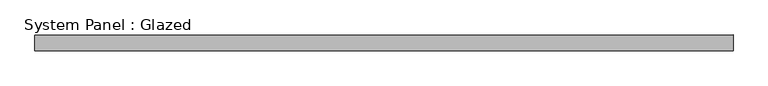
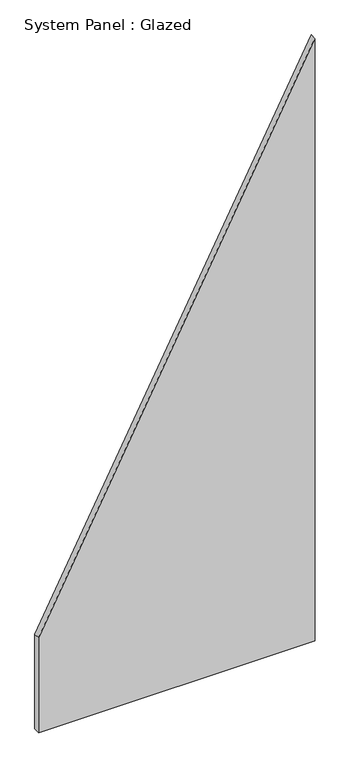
"""IFC4 building model written with IfcOpenShell, lengths in millimetres: plate geometry, System Panel : Glazed."""

from ifc_helpers import new_model, si_unit, frame, origin, place, context, project, spatial, polyline, outline, extrude, source, transform, mapped, element, save


def system_panel_glazed_4028a920(model_context):
    return source(origin(), model_context, "Body", "SweptSolid", [
        extrude(outline(polyline([(0.0, -551.3747861), (0.0, 551.3747861), (2541.0796046, 551.3747861), (399.441933, -551.3747861), (0.0, -551.3747861)])), frame((0.0, -12.5, 0.0), z_axis=(0.0, 1.0, 0.0), x_axis=(0.0, 0.0, 1.0)), (0.0, 0.0, 1.0), 25.0),
    ])


if __name__ == "__main__":
    model = new_model("IFC4")
    model_context = context("Model", 3, world=origin())
    ifc_project = project(units=[si_unit("LENGTHUNIT", "METRE", prefix="MILLI")], contexts=[model_context])
    site = spatial("IfcSite", under=ifc_project)
    building = spatial("IfcBuilding", under=site)
    placement = place(None, origin())
    system_panel_glazed_shape = system_panel_glazed_4028a920(model_context)
    element("IfcPlate", 1, ObjectType="System Panel : Glazed", at=placement, inside=building, context=model_context, shape_type="MappedRepresentation", body=[
        mapped(system_panel_glazed_shape, transform((0.0, 0.0, 0.0), x_axis=(1.0, 0.0, 0.0), y_axis=(0.0, 1.0, 0.0), z_axis=(0.0, 0.0, 1.0))),
    ])
    save(model, "model.ifc")
